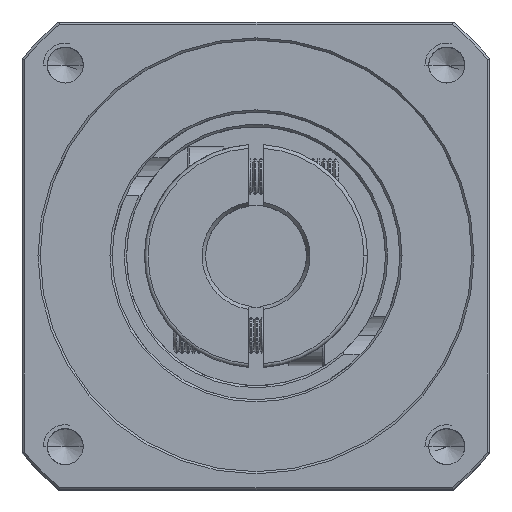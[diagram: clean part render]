
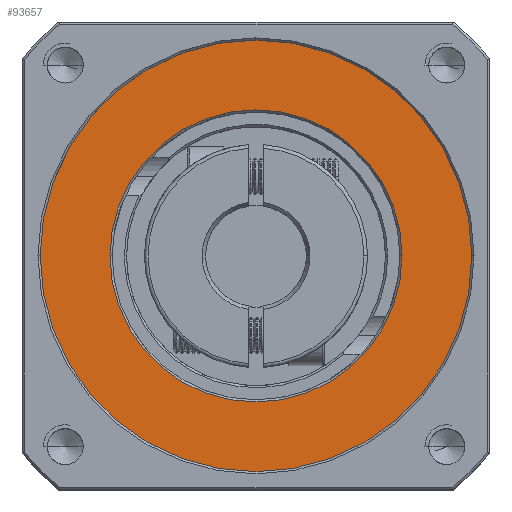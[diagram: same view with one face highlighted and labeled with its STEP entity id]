
A CAD part, top view. The second image highlights one B-rep face of the part: STEP entity #93657.
In plain terms, the highlighted planar face has unit normal (0, 0, 1).
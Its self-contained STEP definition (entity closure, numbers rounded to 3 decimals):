
#596 = CARTESIAN_POINT ( 'NONE',  ( -43.269, 30.892, -1.973 ) ) ;
#3470 = DIRECTION ( 'NONE',  ( 0., 0., 1. ) ) ;
#7636 = CARTESIAN_POINT ( 'NONE',  ( -73.269, 30.892, -1.973 ) ) ;
#8822 = EDGE_CURVE ( 'NONE', #109291, #82192, #94712, .T. ) ;
#8879 = AXIS2_PLACEMENT_3D ( 'NONE', #99021, #49036, #83080 ) ;
#16588 = AXIS2_PLACEMENT_3D ( 'NONE', #36924, #3470, #63913 ) ;
#19006 = DIRECTION ( 'NONE',  ( 0., 0., -1. ) ) ;
#19946 = CIRCLE ( 'NONE', #35150, 20.3 ) ;
#20518 = ORIENTED_EDGE ( 'NONE', *, *, #77719, .T. ) ;
#28548 = DIRECTION ( 'NONE',  ( 1., 0., 0. ) ) ;
#33673 = DIRECTION ( 'NONE',  ( 1., 0., 0. ) ) ;
#35150 = AXIS2_PLACEMENT_3D ( 'NONE', #596, #101020, #33673 ) ;
#36924 = CARTESIAN_POINT ( 'NONE',  ( -43.269, 30.892, -1.973 ) ) ;
#37750 = EDGE_CURVE ( 'NONE', #82192, #109291, #44898, .T. ) ;
#39157 = AXIS2_PLACEMENT_3D ( 'NONE', #70294, #19006, #28548 ) ;
#39855 = ORIENTED_EDGE ( 'NONE', *, *, #37750, .T. ) ;
#44267 = CARTESIAN_POINT ( 'NONE',  ( -22.969, 30.892, -1.973 ) ) ;
#44898 = CIRCLE ( 'NONE', #106917, 30. ) ;
#45785 = EDGE_CURVE ( 'NONE', #55401, #46426, #95485, .T. ) ;
#46120 = DIRECTION ( 'NONE',  ( 0., 0., 1. ) ) ;
#46426 = VERTEX_POINT ( 'NONE', #44267 ) ;
#49036 = DIRECTION ( 'NONE',  ( 0., 0., 1. ) ) ;
#54457 = EDGE_LOOP ( 'NONE', ( #94436, #39855 ) ) ;
#55401 = VERTEX_POINT ( 'NONE', #94160 ) ;
#63913 = DIRECTION ( 'NONE',  ( 1., 0., 0. ) ) ;
#70294 = CARTESIAN_POINT ( 'NONE',  ( -43.269, 30.892, -1.973 ) ) ;
#72373 = CARTESIAN_POINT ( 'NONE',  ( -43.269, 30.892, -1.973 ) ) ;
#77719 = EDGE_CURVE ( 'NONE', #46426, #55401, #19946, .T. ) ;
#82192 = VERTEX_POINT ( 'NONE', #7636 ) ;
#82364 = PLANE ( 'NONE',  #8879 ) ;
#83080 = DIRECTION ( 'NONE',  ( 1., 0., 0. ) ) ;
#86111 = FACE_OUTER_BOUND ( 'NONE', #54457, .T. ) ;
#93657 = ADVANCED_FACE ( 'NONE', ( #108607, #86111 ), #82364, .T. ) ;
#94160 = CARTESIAN_POINT ( 'NONE',  ( -63.569, 30.892, -1.973 ) ) ;
#94436 = ORIENTED_EDGE ( 'NONE', *, *, #8822, .T. ) ;
#94712 = CIRCLE ( 'NONE', #16588, 30. ) ;
#95485 = CIRCLE ( 'NONE', #39157, 20.3 ) ;
#97198 = DIRECTION ( 'NONE',  ( 1., 0., 0. ) ) ;
#98082 = CARTESIAN_POINT ( 'NONE',  ( -13.269, 30.892, -1.973 ) ) ;
#99021 = CARTESIAN_POINT ( 'NONE',  ( -43.269, 30.892, -1.973 ) ) ;
#101020 = DIRECTION ( 'NONE',  ( 0., 0., -1. ) ) ;
#101949 = EDGE_LOOP ( 'NONE', ( #20518, #109331 ) ) ;
#106917 = AXIS2_PLACEMENT_3D ( 'NONE', #72373, #46120, #97198 ) ;
#108607 = FACE_BOUND ( 'NONE', #101949, .T. ) ;
#109291 = VERTEX_POINT ( 'NONE', #98082 ) ;
#109331 = ORIENTED_EDGE ( 'NONE', *, *, #45785, .T. ) ;
